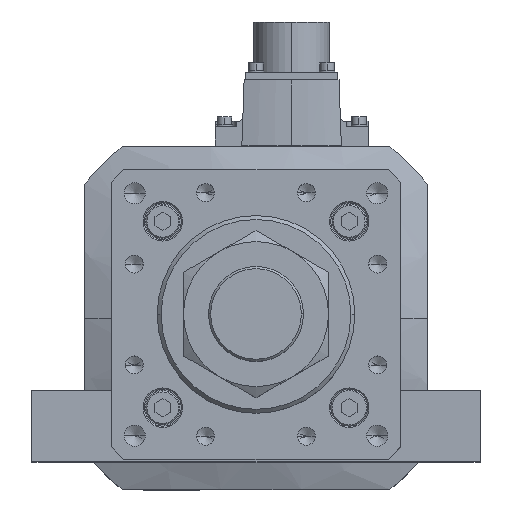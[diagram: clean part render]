
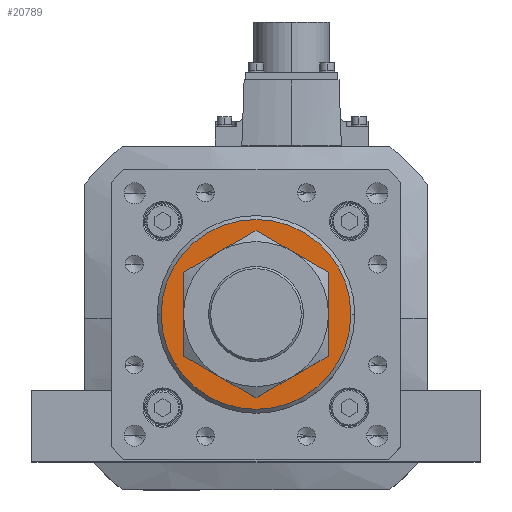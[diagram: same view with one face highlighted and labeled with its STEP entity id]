
A CAD part, top view. The second image highlights one B-rep face of the part: STEP entity #20789.
In plain terms, the highlighted planar face has unit normal (0, 0, 1).
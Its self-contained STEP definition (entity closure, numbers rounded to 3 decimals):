
#290 = EDGE_LOOP ( 'NONE', ( #13486, #7117 ) ) ;
#611 = FACE_OUTER_BOUND ( 'NONE', #290, .T. ) ;
#760 = VERTEX_POINT ( 'NONE', #4845 ) ;
#2047 = CARTESIAN_POINT ( 'NONE',  ( 0., 0., 546. ) ) ;
#2531 = DIRECTION ( 'NONE',  ( 0., 0., -1. ) ) ;
#3896 = EDGE_LOOP ( 'NONE', ( #36658, #18792 ) ) ;
#4828 = EDGE_CURVE ( 'NONE', #7363, #23465, #27881, .T. ) ;
#4845 = CARTESIAN_POINT ( 'NONE',  ( 36., 0., 546. ) ) ;
#6422 = AXIS2_PLACEMENT_3D ( 'NONE', #31112, #27750, #7283 ) ;
#7117 = ORIENTED_EDGE ( 'NONE', *, *, #34953, .T. ) ;
#7283 = DIRECTION ( 'NONE',  ( 1., 0., 0. ) ) ;
#7363 = VERTEX_POINT ( 'NONE', #21907 ) ;
#10796 = FACE_BOUND ( 'NONE', #3896, .T. ) ;
#13486 = ORIENTED_EDGE ( 'NONE', *, *, #15387, .T. ) ;
#13704 = CARTESIAN_POINT ( 'NONE',  ( 0., 0., 546. ) ) ;
#13998 = CARTESIAN_POINT ( 'NONE',  ( 0., 0., 546. ) ) ;
#14064 = VERTEX_POINT ( 'NONE', #31018 ) ;
#15372 = AXIS2_PLACEMENT_3D ( 'NONE', #2047, #37406, #37672 ) ;
#15387 = EDGE_CURVE ( 'NONE', #14064, #760, #15676, .T. ) ;
#15676 = CIRCLE ( 'NONE', #15372, 36. ) ;
#17409 = CARTESIAN_POINT ( 'NONE',  ( 0., 0., 546. ) ) ;
#17475 = EDGE_CURVE ( 'NONE', #23465, #7363, #18787, .T. ) ;
#18787 = CIRCLE ( 'NONE', #24586, 23. ) ;
#18792 = ORIENTED_EDGE ( 'NONE', *, *, #4828, .T. ) ;
#19637 = DIRECTION ( 'NONE',  ( 1., 0., 0. ) ) ;
#20789 = ADVANCED_FACE ( 'NONE', ( #10796, #611 ), #31715, .T. ) ;
#21907 = CARTESIAN_POINT ( 'NONE',  ( -23., 0., 546. ) ) ;
#23465 = VERTEX_POINT ( 'NONE', #33040 ) ;
#24586 = AXIS2_PLACEMENT_3D ( 'NONE', #17409, #2531, #29318 ) ;
#25992 = DIRECTION ( 'NONE',  ( 1., 0., 0. ) ) ;
#27750 = DIRECTION ( 'NONE',  ( 0., 0., -1. ) ) ;
#27881 = CIRCLE ( 'NONE', #6422, 23. ) ;
#29318 = DIRECTION ( 'NONE',  ( 1., 0., 0. ) ) ;
#31018 = CARTESIAN_POINT ( 'NONE',  ( -36., 0., 546. ) ) ;
#31112 = CARTESIAN_POINT ( 'NONE',  ( 0., 0., 546. ) ) ;
#31715 = PLANE ( 'NONE',  #35738 ) ;
#31825 = CIRCLE ( 'NONE', #36919, 36. ) ;
#33040 = CARTESIAN_POINT ( 'NONE',  ( 23., 0., 546. ) ) ;
#34025 = DIRECTION ( 'NONE',  ( 0., 0., 1. ) ) ;
#34953 = EDGE_CURVE ( 'NONE', #760, #14064, #31825, .T. ) ;
#35738 = AXIS2_PLACEMENT_3D ( 'NONE', #13998, #37673, #25992 ) ;
#36658 = ORIENTED_EDGE ( 'NONE', *, *, #17475, .T. ) ;
#36919 = AXIS2_PLACEMENT_3D ( 'NONE', #13704, #34025, #19637 ) ;
#37406 = DIRECTION ( 'NONE',  ( 0., 0., 1. ) ) ;
#37672 = DIRECTION ( 'NONE',  ( 1., 0., 0. ) ) ;
#37673 = DIRECTION ( 'NONE',  ( 0., 0., 1. ) ) ;
